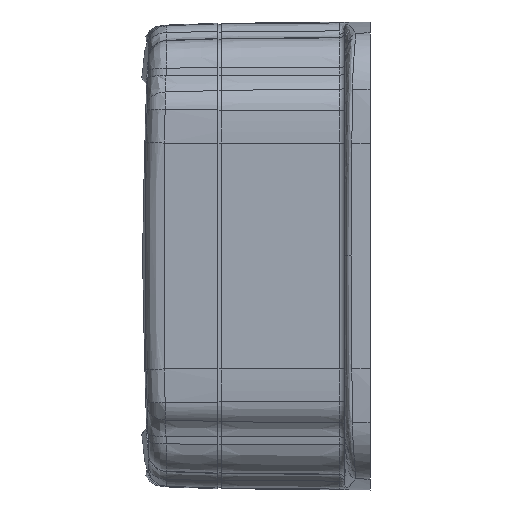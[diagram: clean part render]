
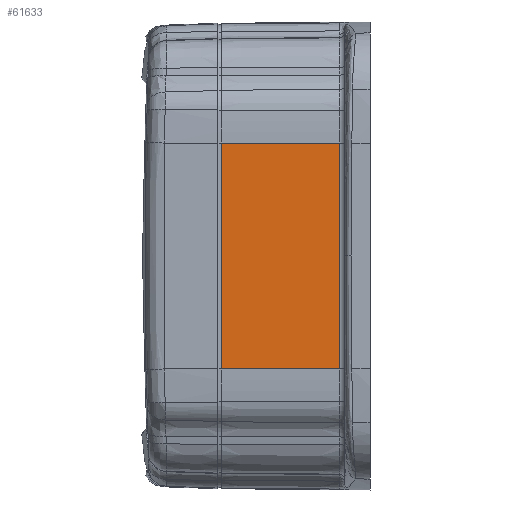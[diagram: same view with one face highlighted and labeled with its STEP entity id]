
A CAD part, left-side view. The second image highlights one B-rep face of the part: STEP entity #61633.
In plain terms, the highlighted planar face has unit normal (-1, 0.009, 0).
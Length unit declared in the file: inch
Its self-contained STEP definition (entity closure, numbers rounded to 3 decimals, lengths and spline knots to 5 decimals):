
#3519 = VERTEX_POINT ( 'NONE', #65893 ) ;
#7764 = VECTOR ( 'NONE', #89857, 39.37008 ) ;
#10856 = LINE ( 'NONE', #40202, #42722 ) ;
#11832 = ORIENTED_EDGE ( 'NONE', *, *, #17411, .F. ) ;
#13622 = VECTOR ( 'NONE', #27406, 39.37008 ) ;
#13756 = EDGE_CURVE ( 'NONE', #76150, #35628, #74526, .T. ) ;
#14081 = VECTOR ( 'NONE', #89679, 39.37008 ) ;
#17411 = EDGE_CURVE ( 'NONE', #35628, #3519, #10856, .T. ) ;
#18377 = PLANE ( 'NONE',  #85428 ) ;
#22723 = FACE_OUTER_BOUND ( 'NONE', #87719, .T. ) ;
#25492 = DIRECTION ( 'NONE',  ( -0.009, -1., 0. ) ) ;
#27406 = DIRECTION ( 'NONE',  ( 0., 0., 1. ) ) ;
#31148 = LINE ( 'NONE', #59069, #7764 ) ;
#32822 = EDGE_CURVE ( 'NONE', #41895, #3519, #70974, .T. ) ;
#33021 = CARTESIAN_POINT ( 'NONE',  ( -3.81521, 0.30452, -1.12 ) ) ;
#35628 = VERTEX_POINT ( 'NONE', #46839 ) ;
#40202 = CARTESIAN_POINT ( 'NONE',  ( -3.805, 1.475, 1.12 ) ) ;
#41895 = VERTEX_POINT ( 'NONE', #33021 ) ;
#42722 = VECTOR ( 'NONE', #89528, 39.37008 ) ;
#46839 = CARTESIAN_POINT ( 'NONE',  ( -3.805, 1.475, 1.12 ) ) ;
#59069 = CARTESIAN_POINT ( 'NONE',  ( -3.805, 1.475, -1.12 ) ) ;
#60626 = ORIENTED_EDGE ( 'NONE', *, *, #90717, .T. ) ;
#61633 = ADVANCED_FACE ( 'NONE', ( #22723 ), #18377, .T. ) ;
#63661 = ORIENTED_EDGE ( 'NONE', *, *, #32822, .T. ) ;
#65893 = CARTESIAN_POINT ( 'NONE',  ( -3.81521, 0.30452, 1.12 ) ) ;
#68093 = ORIENTED_EDGE ( 'NONE', *, *, #13756, .F. ) ;
#68594 = DIRECTION ( 'NONE',  ( -1., 0.009, 0. ) ) ;
#69055 = CARTESIAN_POINT ( 'NONE',  ( -3.805, 1.475, 1.12 ) ) ;
#70974 = LINE ( 'NONE', #84757, #13622 ) ;
#73167 = CARTESIAN_POINT ( 'NONE',  ( -3.805, 1.475, -1.12 ) ) ;
#74526 = LINE ( 'NONE', #74982, #14081 ) ;
#74982 = CARTESIAN_POINT ( 'NONE',  ( -3.805, 1.475, 1.12 ) ) ;
#76150 = VERTEX_POINT ( 'NONE', #73167 ) ;
#84757 = CARTESIAN_POINT ( 'NONE',  ( -3.81521, 0.30452, 1.12 ) ) ;
#85428 = AXIS2_PLACEMENT_3D ( 'NONE', #69055, #68594, #25492 ) ;
#87719 = EDGE_LOOP ( 'NONE', ( #60626, #63661, #11832, #68093 ) ) ;
#89528 = DIRECTION ( 'NONE',  ( -0.009, -1., 0. ) ) ;
#89679 = DIRECTION ( 'NONE',  ( 0., 0., 1. ) ) ;
#89857 = DIRECTION ( 'NONE',  ( -0.009, -1., 0. ) ) ;
#90717 = EDGE_CURVE ( 'NONE', #76150, #41895, #31148, .T. ) ;
